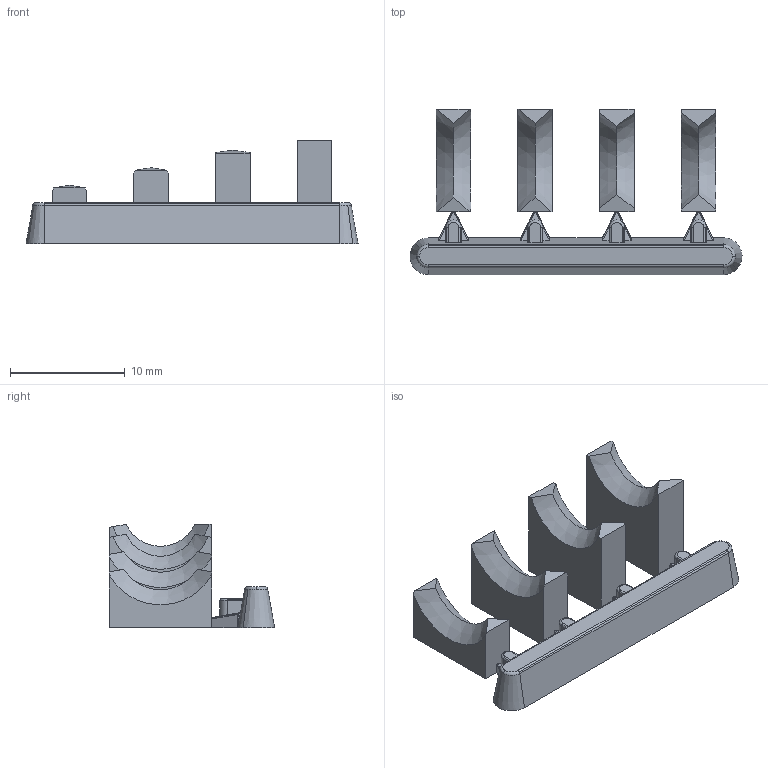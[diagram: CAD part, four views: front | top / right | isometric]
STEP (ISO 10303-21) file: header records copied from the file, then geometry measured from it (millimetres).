
FILE_DESCRIPTION((''),'2;1');
FILE_NAME('cp 09 str insert.stp','2008-08-18T15:25:54',(''),(''),'Mechanical Desktop.R8.0.24.0','Mechanical Desktop.R8.0.24.0',', , ');
FILE_SCHEMA(('CONFIG_CONTROL_DESIGN'));
Length unit declared in the file: inch
Products named in the file (2): CP 09 STR INSERT UNION; RM_SDB
Assembly tree (1 placements, depth 2):
  CP 09 STR INSERT UNION
    RM_SDB
Bounding box: 28.9 x 14.38 x 8.99 mm (x, y, z)
Volume: 884.2 mm3; surface area: 1197.5 mm2
Topology: 1 solids, 1 shells, 156 faces, 450 edges, 296 vertices
Faces by surface type: plane 76, cylinder 60, cone 12, torus 8
Entity records: 5297 total; most frequent: CARTESIAN_POINT 1004, DIRECTION 914, ORIENTED_EDGE 900, EDGE_CURVE 450, AXIS2_PLACEMENT_3D 342, VERTEX_POINT 296, VECTOR 230, LINE 230
